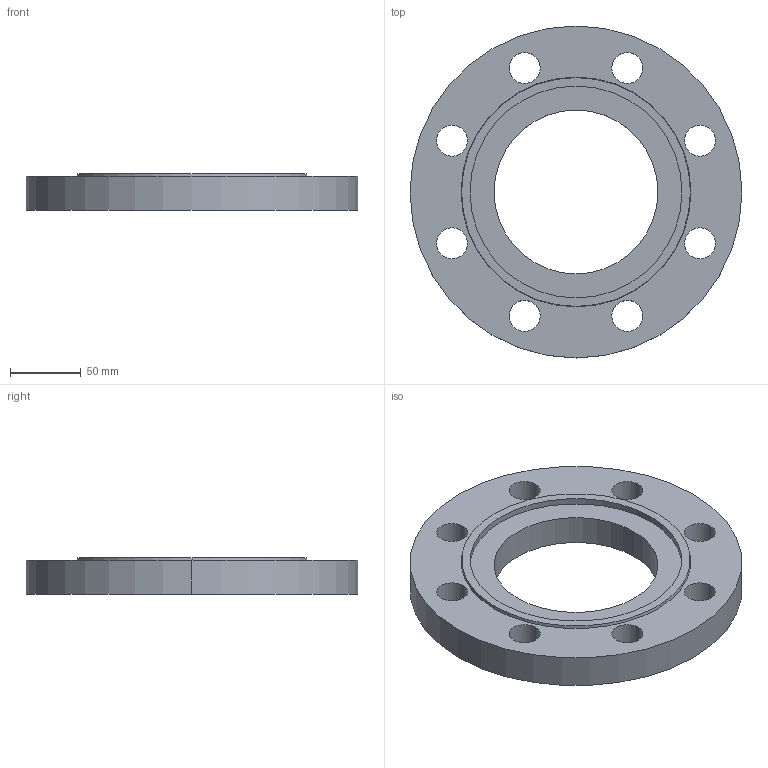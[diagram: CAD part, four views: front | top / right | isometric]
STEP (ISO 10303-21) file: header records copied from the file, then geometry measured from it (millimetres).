
FILE_DESCRIPTION (( 'STEP AP214' ), '1' );
FILE_NAME ('PN40 DN100 Type 01 - Type F Face.STEP', '2019-01-02T00:28:45', ( '' ), ( '' ), 'SwSTEP 2.0', 'SolidWorks 2019', '' );
FILE_SCHEMA (( 'AUTOMOTIVE_DESIGN' ));
Length unit declared in the file: millimetre
Products named in the file (1): PN40 DN100 Type 01 - Type F Face
Bounding box: 235 x 235 x 26 mm (x, y, z)
Volume: 702644.6 mm3; surface area: 101328.8 mm2
Topology: 1 solids, 1 shells, 28 faces, 72 edges, 48 vertices
Faces by surface type: cylinder 22, plane 4, cone 2
Entity records: 954 total; most frequent: DIRECTION 178, CARTESIAN_POINT 149, ORIENTED_EDGE 144, AXIS2_PLACEMENT_3D 77, EDGE_CURVE 72, CIRCLE 48, VERTEX_POINT 48, EDGE_LOOP 48
